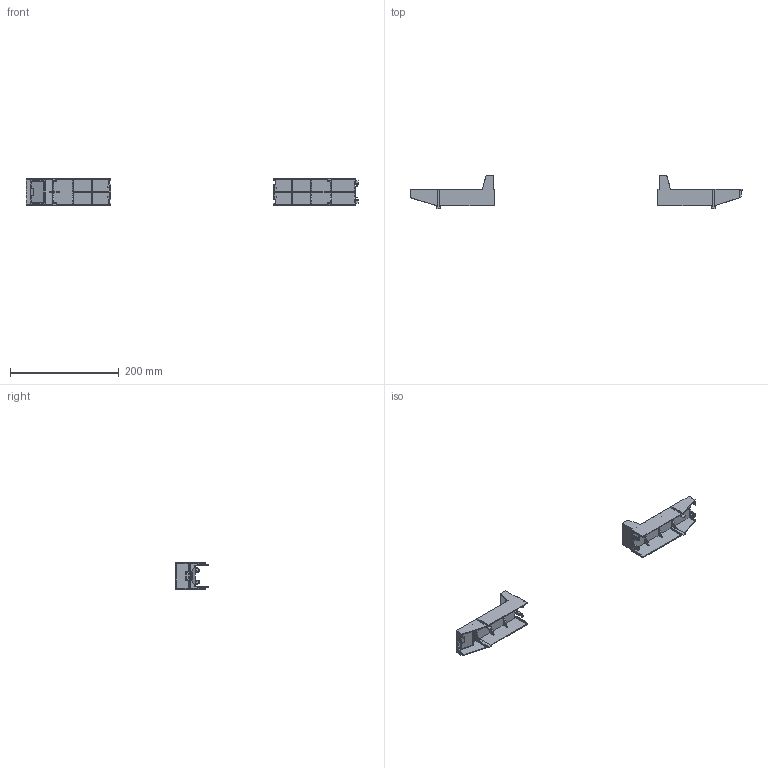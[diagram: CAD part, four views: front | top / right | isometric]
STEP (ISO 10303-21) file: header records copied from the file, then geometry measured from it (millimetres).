
FILE_DESCRIPTION(/* description */ (''),/* implementation_level */ '2;1');
FILE_NAME(/* name */ '92_MZ00AAD',/* time_stamp */ '2014-08-14T13:16:47+02:00',/* author */ (''),/* organization */ (''),/* preprocessor_version */ 'ST-DEVELOPER v9',/* originating_system */ 'UGS - NX 4.0',/* authorisation */ '');
FILE_SCHEMA (('CONFIG_CONTROL_DESIGN'));
Length unit declared in the file: millimetre
Products named in the file (1): MTroCB04a6v3
Bounding box: 610.5 x 62 x 49 mm (x, y, z)
Volume: 63987.5 mm3; surface area: 83090.5 mm2
Topology: 2 solids, 2 shells, 402 faces, 1179 edges, 775 vertices
Faces by surface type: plane 354, cylinder 48
Entity records: 13249 total; most frequent: CARTESIAN_POINT 2360, ORIENTED_EDGE 2358, DIRECTION 2113, EDGE_CURVE 1179, LINE 1049, VECTOR 1049, VERTEX_POINT 775, AXIS2_PLACEMENT_3D 532
